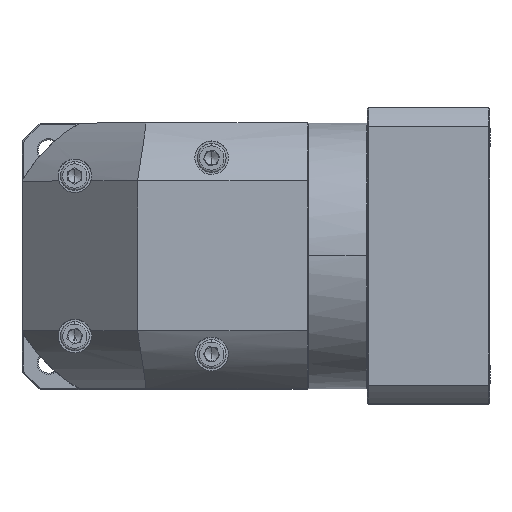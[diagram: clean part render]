
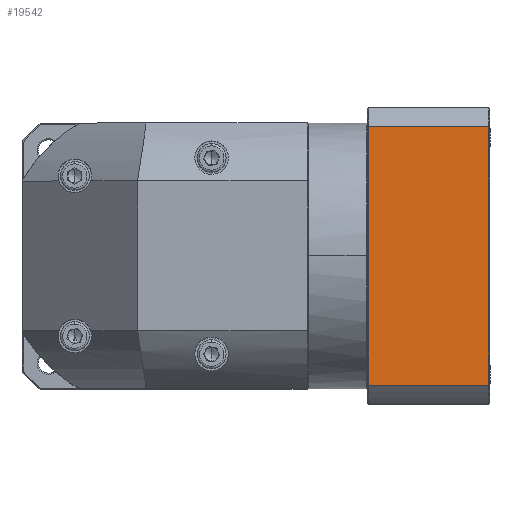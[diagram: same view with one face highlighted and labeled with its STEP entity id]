
A CAD part, top view. The second image highlights one B-rep face of the part: STEP entity #19542.
In plain terms, the highlighted planar face has unit normal (0, 0, 1).
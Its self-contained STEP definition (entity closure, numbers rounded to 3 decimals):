
#4961 = DIRECTION ( 'NONE',  ( 0., 0., -1. ) ) ;
#6294 = DIRECTION ( 'NONE',  ( 0., -1., 0. ) ) ;
#8802 = EDGE_LOOP ( 'NONE', ( #38353, #78129, #51617, #103383 ) ) ;
#19542 = ADVANCED_FACE ( 'NONE', ( #104799 ), #118413, .F. ) ;
#20284 = EDGE_CURVE ( 'NONE', #32705, #126741, #82847, .T. ) ;
#21338 = VECTOR ( 'NONE', #30181, 1000. ) ;
#30181 = DIRECTION ( 'NONE',  ( 1., 0., 0. ) ) ;
#32705 = VERTEX_POINT ( 'NONE', #67999 ) ;
#38353 = ORIENTED_EDGE ( 'NONE', *, *, #134972, .F. ) ;
#39527 = VECTOR ( 'NONE', #90646, 1000. ) ;
#39951 = CARTESIAN_POINT ( 'NONE',  ( -114.602, 131.474, 77.821 ) ) ;
#51617 = ORIENTED_EDGE ( 'NONE', *, *, #54359, .F. ) ;
#54359 = EDGE_CURVE ( 'NONE', #92263, #32705, #86599, .T. ) ;
#56551 = VECTOR ( 'NONE', #80301, 1000. ) ;
#59571 = LINE ( 'NONE', #39951, #21338 ) ;
#59889 = CARTESIAN_POINT ( 'NONE',  ( 128.718, 139.537, 77.821 ) ) ;
#67999 = CARTESIAN_POINT ( 'NONE',  ( 128.718, 19.599, 77.821 ) ) ;
#69123 = CARTESIAN_POINT ( 'NONE',  ( -114.602, 19.599, 77.821 ) ) ;
#70086 = CARTESIAN_POINT ( 'NONE',  ( 180.718, 139.537, 77.821 ) ) ;
#73483 = CARTESIAN_POINT ( 'NONE',  ( 180.718, 131.474, 77.821 ) ) ;
#74384 = CARTESIAN_POINT ( 'NONE',  ( 128.718, 131.474, 77.821 ) ) ;
#78129 = ORIENTED_EDGE ( 'NONE', *, *, #20284, .F. ) ;
#78525 = CARTESIAN_POINT ( 'NONE',  ( 181.218, 139.537, 77.821 ) ) ;
#80301 = DIRECTION ( 'NONE',  ( -1., 0., 0. ) ) ;
#82847 = LINE ( 'NONE', #59889, #39527 ) ;
#86599 = LINE ( 'NONE', #69123, #56551 ) ;
#90646 = DIRECTION ( 'NONE',  ( 0., 1., 0. ) ) ;
#91537 = AXIS2_PLACEMENT_3D ( 'NONE', #78525, #4961, #100794 ) ;
#92263 = VERTEX_POINT ( 'NONE', #137517 ) ;
#97383 = EDGE_CURVE ( 'NONE', #105346, #92263, #108592, .T. ) ;
#100794 = DIRECTION ( 'NONE',  ( 0., -1., 0. ) ) ;
#103383 = ORIENTED_EDGE ( 'NONE', *, *, #97383, .F. ) ;
#104799 = FACE_OUTER_BOUND ( 'NONE', #8802, .T. ) ;
#105346 = VERTEX_POINT ( 'NONE', #73483 ) ;
#108592 = LINE ( 'NONE', #70086, #125218 ) ;
#118413 = PLANE ( 'NONE',  #91537 ) ;
#125218 = VECTOR ( 'NONE', #6294, 1000. ) ;
#126741 = VERTEX_POINT ( 'NONE', #74384 ) ;
#134972 = EDGE_CURVE ( 'NONE', #126741, #105346, #59571, .T. ) ;
#137517 = CARTESIAN_POINT ( 'NONE',  ( 180.718, 19.599, 77.821 ) ) ;
